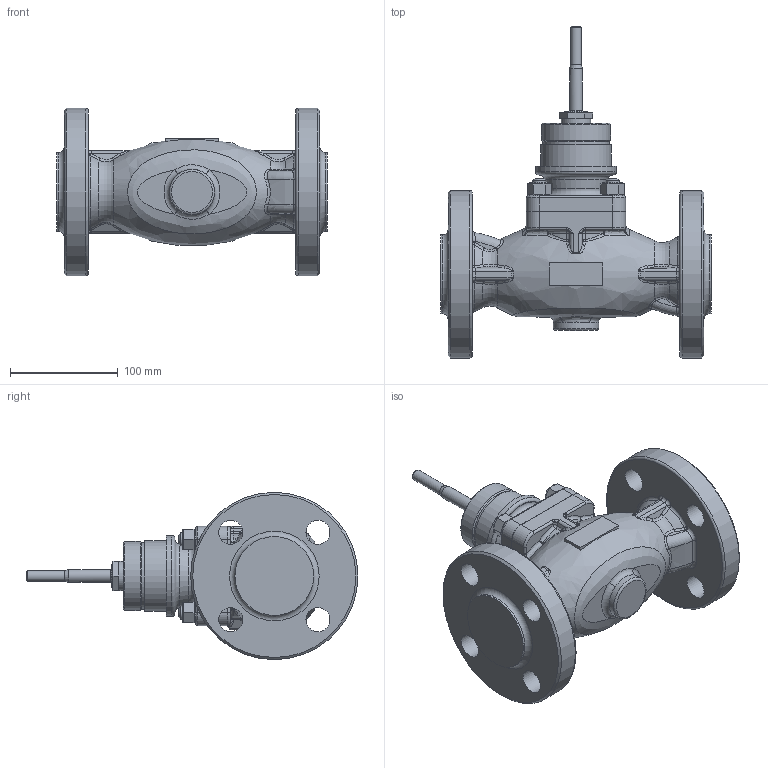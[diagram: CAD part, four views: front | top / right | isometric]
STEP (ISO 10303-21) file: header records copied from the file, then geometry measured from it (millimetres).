
FILE_DESCRIPTION(/* description */ (''),/* implementation_level */ '2;1');
FILE_NAME(/* name */ 'CV3xx_NPS_1_1_2_priruba_CL600.stp',/* time_stamp */ '2014-01-07T07:28:05+01:00',/* author */ (''),/* organization */ ('LDM'),/* preprocessor_version */ 'ST-DEVELOPER v11',/* originating_system */ 'SIEMENS PLM Software NX 7.0',/* authorisation */ '');
FILE_SCHEMA (('CONFIG_CONTROL_DESIGN'));
Length unit declared in the file: millimetre
Products named in the file (1): adamED63yt07
Bounding box: 251 x 307.5 x 155 mm (x, y, z)
Volume: 2378641.8 mm3; surface area: 195398.7 mm2
Topology: 1 solids, 5 shells, 483 faces, 1090 edges, 629 vertices
Faces by surface type: cylinder 115, plane 109, bspline 102, cone 82, torus 51, sphere 24
Full cylindrical faces by diameter (mm): 10 x1, 12 x13, 14 x1, 18 x1, 19 x8, 21 x1, 22.3 x8, 27 x1, 42 x1, 61.6 x1, 64 x1, 65 x1, 73 x2, 75 x1, 76 x1, 155 x2
Entity records: 14883 total; most frequent: CARTESIAN_POINT 5284, ORIENTED_EDGE 1926, DIRECTION 1916, EDGE_CURVE 963, AXIS2_PLACEMENT_3D 864, EDGE_LOOP 614, VERTEX_POINT 589, ADVANCED_FACE 483
